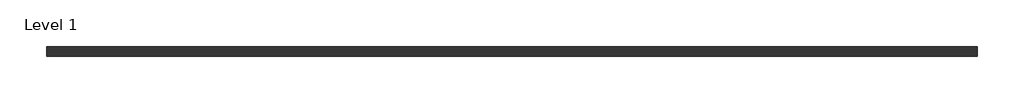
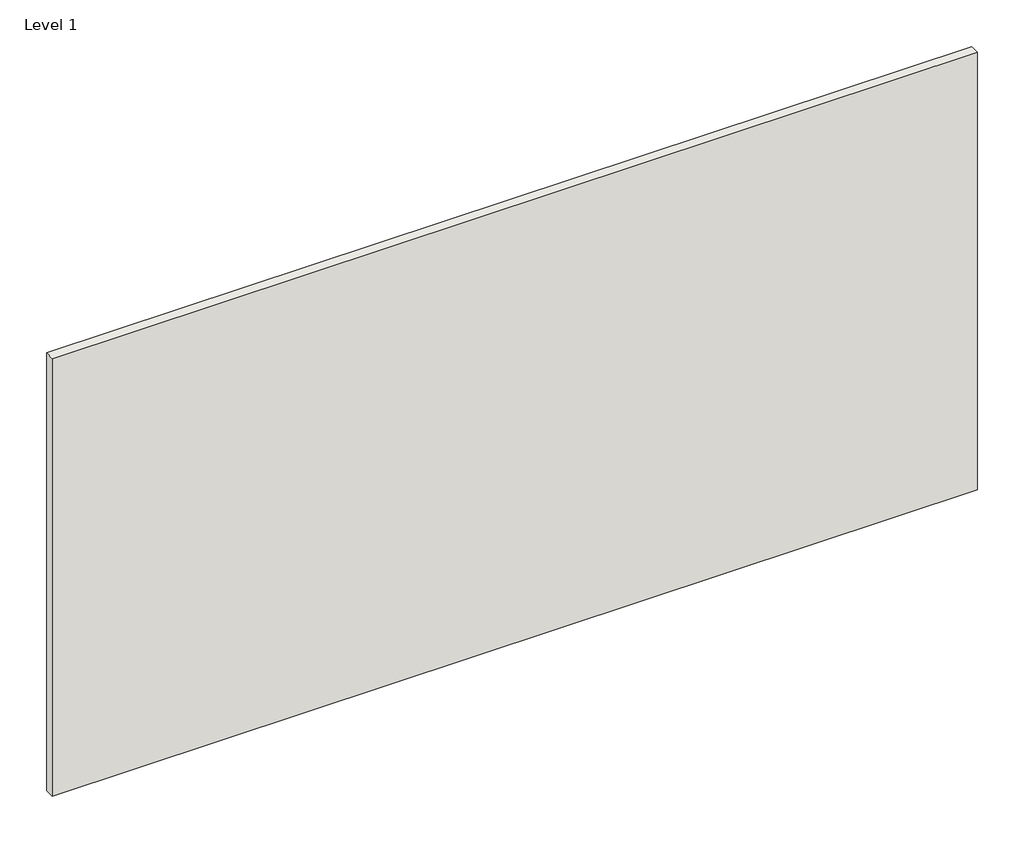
# One storey: 1 wall.
"""IFC4 building model written with IfcOpenShell, lengths in millimetres."""

from ifc_helpers import new_model, si_unit, origin, origin_with_axes, place, context, project, spatial, polyline, outline, extrude, element, save

model = new_model("IFC4")

# Units and contexts
model_context = context("Model", 3, world=origin())
ifc_project = project(units=[si_unit("LENGTHUNIT", "METRE", prefix="MILLI")], contexts=[model_context])

# Site, building, storey
site = spatial("IfcSite", under=ifc_project)
building = spatial("IfcBuilding", under=site)
storey = spatial("IfcBuildingStorey", under=building, Name="Level 1", Elevation=0.0)

# Wall
placement = place(None, origin())
element("IfcWall", 1, ObjectType="Metal_Panel-MBCI-Architectural-NuWall", at=placement, inside=storey, context=model_context, shape_type="SweptSolid", body=[
    extrude(outline(polyline([(-14791.3158266, 1345.7193489), (-8695.3158266, 1345.7193489), (-8695.3158266, 1282.2193489), (-14791.3158266, 1282.2193489), (-14791.3158266, 1345.7193489)])), origin_with_axes(), (0.0, 0.0, 1.0), 3048.0),
])

save(model, "model.ifc")
